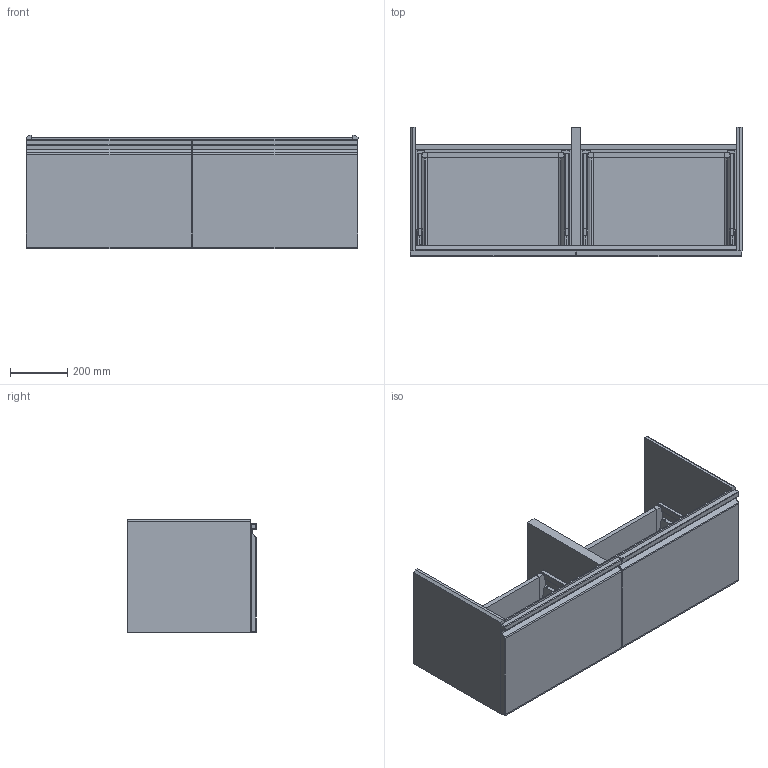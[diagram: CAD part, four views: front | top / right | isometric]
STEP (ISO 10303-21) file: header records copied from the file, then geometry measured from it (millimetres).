
FILE_DESCRIPTION(/* description */ (''),/* implementation_level */ '2;1');
FILE_NAME(/* name */ '3D6CF7~1',/* time_stamp */ '2018-05-14T11:21:51+02:00',/* author */ (''),/* organization */ (''),/* preprocessor_version */ 'ST-DEVELOPER v15',/* originating_system */ '',/* authorisation */ '');
FILE_SCHEMA (('AUTOMOTIVE_DESIGN'));
Length unit declared in the file: millimetre
Products named in the file (31): Document; Parte645; Parte643; Parte641; Parte639; Parte637; Parte635; Parte633; Parte631; Parte629; Parte627; Parte625; Parte619; Parte617; Parte615; Parte613; Parte611; Parte609; Parte607; Parte605; Parte603; Parte601; Parte599; Parte593; Parte587; Parte577; Parte575; Parte573; Parte571; Parte569; Parte511
Assembly tree (30 placements, depth 2):
  Document
    Parte645
    Parte643
    Parte641
    Parte639
    Parte637
    Parte635
    Parte633
    Parte631
    Parte629
    Parte627
    Parte625
    Parte619
    Parte617
    Parte615
    Parte613
    Parte611
    Parte609
    Parte607
    Parte605
    Parte603
    Parte601
    Parte599
    Parte593
    Parte587
    Parte577
    Parte575
    Parte573
    Parte571
    Parte569
    Parte511
Bounding box: 1159 x 450 x 397 mm (x, y, z)
Volume: 29672436.3 mm3; surface area: 4838877.8 mm2
Topology: 30 solids, 32 shells, 1054 faces, 2864 edges, 1916 vertices
Faces by surface type: plane 707, bspline 347
Entity records: 37367 total; most frequent: CARTESIAN_POINT 17989, ORIENTED_EDGE 5700, EDGE_CURVE 2856, B_SPLINE_CURVE_WITH_KNOTS 2106, VERTEX_POINT 1916, EDGE_LOOP 1186, ADVANCED_FACE 1054, FACE_OUTER_BOUND 1054
